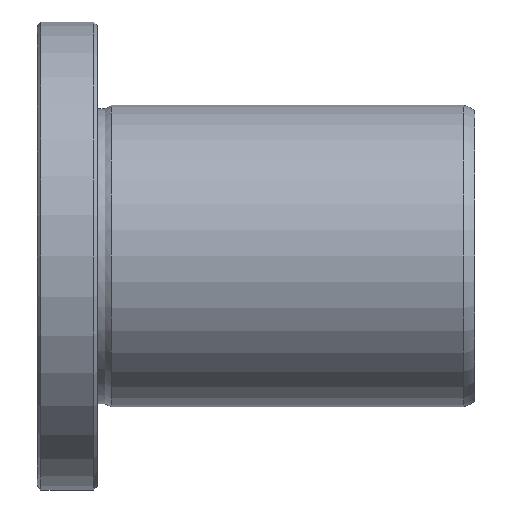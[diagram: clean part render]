
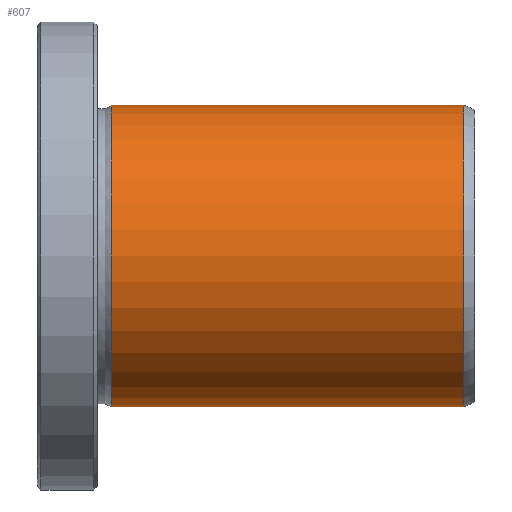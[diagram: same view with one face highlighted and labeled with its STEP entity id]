
A CAD part, front view. The second image highlights one B-rep face of the part: STEP entity #607.
In plain terms, the highlighted cylindrical face has radius 20 mm (diameter 40 mm), a full revolution.
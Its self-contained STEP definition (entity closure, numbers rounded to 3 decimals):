
#573=CARTESIAN_POINT('',(56.502,0.0,20.));
#574=VERTEX_POINT('',#573);
#575=CARTESIAN_POINT('',(56.502,0.0,0.0));
#576=DIRECTION('',(-1.0,0.0,0.0));
#577=DIRECTION('',(0.0,0.0,1.0));
#578=AXIS2_PLACEMENT_3D('',#575,#576,#577);
#579=CIRCLE('',#578,20.);
#580=EDGE_CURVE('',#574,#574,#579,.T.);
#588=CARTESIAN_POINT('',(33.162,0.0,0.0));
#589=DIRECTION('',(-1.0,0.0,0.0));
#590=DIRECTION('',(0.0,0.0,1.0));
#591=AXIS2_PLACEMENT_3D('',#588,#589,#590);
#592=CYLINDRICAL_SURFACE('',#591,20.);
#593=CARTESIAN_POINT('',(9.823,0.0,20.0));
#594=VERTEX_POINT('',#593);
#595=CARTESIAN_POINT('',(9.823,0.0,0.0));
#596=DIRECTION('',(-1.0,0.0,0.0));
#597=DIRECTION('',(0.0,0.0,1.0));
#598=AXIS2_PLACEMENT_3D('',#595,#596,#597);
#599=CIRCLE('',#598,20.0);
#600=EDGE_CURVE('',#594,#594,#599,.T.);
#601=ORIENTED_EDGE('',*,*,#600,.F.);
#602=EDGE_LOOP('',(#601));
#603=FACE_OUTER_BOUND('',#602,.T.);
#604=ORIENTED_EDGE('',*,*,#580,.T.);
#605=EDGE_LOOP('',(#604));
#606=FACE_BOUND('',#605,.T.);
#607=ADVANCED_FACE('',(#603,#606),#592,.T.);
